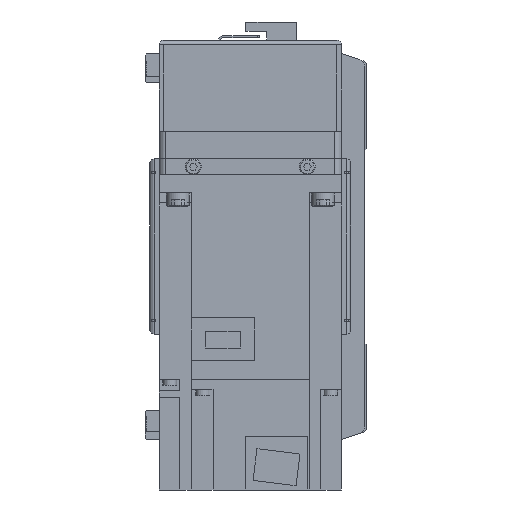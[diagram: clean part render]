
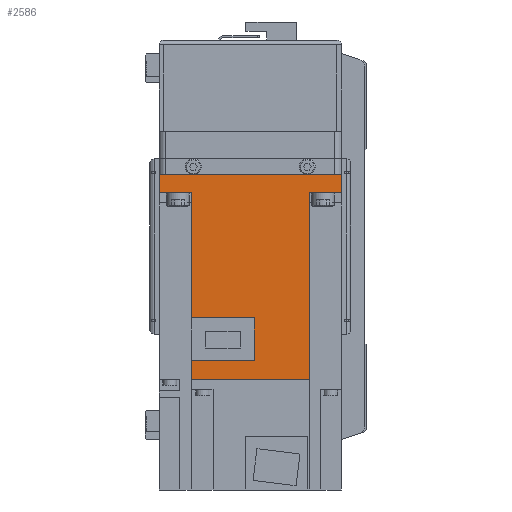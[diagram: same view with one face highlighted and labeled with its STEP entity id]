
A CAD part, left-side view. The second image highlights one B-rep face of the part: STEP entity #2586.
In plain terms, the highlighted planar face has unit normal (-1, 0, 0) as drawn and (1, 0, 0) by its records, which use the part's own axes.
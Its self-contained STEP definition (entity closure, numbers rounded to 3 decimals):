
#2586 = ADVANCED_FACE( '', ( #5680 ), #5681, .F. );
#5680 = FACE_OUTER_BOUND( '', #9236, .T. );
#5681 = PLANE( '', #9237 );
#9236 = EDGE_LOOP( '', ( #16623, #16624, #16625, #16626, #16627, #16628, #16629, #16630, #16631, #16632, #16633, #16634 ) );
#9237 = AXIS2_PLACEMENT_3D( '', #16635, #16636, #16637 );
#16623 = ORIENTED_EDGE( '', *, *, #22984, .F. );
#16624 = ORIENTED_EDGE( '', *, *, #22985, .F. );
#16625 = ORIENTED_EDGE( '', *, *, #22899, .F. );
#16626 = ORIENTED_EDGE( '', *, *, #22357, .T. );
#16627 = ORIENTED_EDGE( '', *, *, #20607, .F. );
#16628 = ORIENTED_EDGE( '', *, *, #20222, .T. );
#16629 = ORIENTED_EDGE( '', *, *, #22370, .T. );
#16630 = ORIENTED_EDGE( '', *, *, #21578, .F. );
#16631 = ORIENTED_EDGE( '', *, *, #22241, .F. );
#16632 = ORIENTED_EDGE( '', *, *, #22986, .F. );
#16633 = ORIENTED_EDGE( '', *, *, #22097, .F. );
#16634 = ORIENTED_EDGE( '', *, *, #22987, .F. );
#16635 = CARTESIAN_POINT( '', ( 40., 89.8, 40. ) );
#16636 = DIRECTION( '', ( -1., 0., 0. ) );
#16637 = DIRECTION( '', ( 0., 0., 1. ) );
#20222 = EDGE_CURVE( '', #24056, #24054, #24057, .T. );
#20607 = EDGE_CURVE( '', #24056, #24737, #24738, .T. );
#21578 = EDGE_CURVE( '', #26321, #26323, #26324, .T. );
#22097 = EDGE_CURVE( '', #27140, #27141, #27142, .T. );
#22241 = EDGE_CURVE( '', #27353, #26321, #27354, .T. );
#22357 = EDGE_CURVE( '', #27518, #24737, #27519, .T. );
#22370 = EDGE_CURVE( '', #24054, #26323, #27537, .T. );
#22899 = EDGE_CURVE( '', #27518, #28254, #28257, .T. );
#22984 = EDGE_CURVE( '', #27649, #28363, #28364, .T. );
#22985 = EDGE_CURVE( '', #28254, #27649, #28365, .T. );
#22986 = EDGE_CURVE( '', #27141, #27353, #28366, .T. );
#22987 = EDGE_CURVE( '', #28363, #27140, #28367, .T. );
#24054 = VERTEX_POINT( '', #29688 );
#24056 = VERTEX_POINT( '', #29691 );
#24057 = LINE( '', #29692, #29693 );
#24737 = VERTEX_POINT( '', #30829 );
#24738 = LINE( '', #30830, #30831 );
#26321 = VERTEX_POINT( '', #33308 );
#26323 = VERTEX_POINT( '', #33311 );
#26324 = LINE( '', #33312, #33313 );
#27140 = VERTEX_POINT( '', #34717 );
#27141 = VERTEX_POINT( '', #34718 );
#27142 = LINE( '', #34719, #34720 );
#27353 = VERTEX_POINT( '', #35033 );
#27354 = LINE( '', #35034, #35035 );
#27518 = VERTEX_POINT( '', #35276 );
#27519 = LINE( '', #35277, #35278 );
#27537 = LINE( '', #35303, #35304 );
#27649 = VERTEX_POINT( '', #35472 );
#28254 = VERTEX_POINT( '', #36288 );
#28257 = LINE( '', #36293, #36294 );
#28363 = VERTEX_POINT( '', #36443 );
#28364 = LINE( '', #36444, #36445 );
#28365 = LINE( '', #36446, #36447 );
#28366 = LINE( '', #36448, #36449 );
#28367 = LINE( '', #36450, #36451 );
#29688 = CARTESIAN_POINT( '', ( 40., 0., 40. ) );
#29691 = CARTESIAN_POINT( '', ( 40., 8., 40. ) );
#29692 = CARTESIAN_POINT( '', ( 40., 89.8, 40. ) );
#29693 = VECTOR( '', #37799, 1000. );
#30829 = CARTESIAN_POINT( '', ( 40., 8., 25.95 ) );
#30830 = CARTESIAN_POINT( '', ( 40., 8., 40. ) );
#30831 = VECTOR( '', #38306, 1000. );
#33308 = CARTESIAN_POINT( '', ( 40., 8., -40. ) );
#33311 = CARTESIAN_POINT( '', ( 40., 0., -40. ) );
#33312 = CARTESIAN_POINT( '', ( 40., 89.8, -40. ) );
#33313 = VECTOR( '', #39545, 1000. );
#34717 = CARTESIAN_POINT( '', ( 40., 62.8, 1.8 ) );
#34718 = CARTESIAN_POINT( '', ( 40., 62.8, -25.95 ) );
#34719 = CARTESIAN_POINT( '', ( 40., 62.8, 1.8 ) );
#34720 = VECTOR( '', #40206, 1000. );
#35033 = CARTESIAN_POINT( '', ( 40., 8., -25.95 ) );
#35034 = CARTESIAN_POINT( '', ( 40., 8., 40. ) );
#35035 = VECTOR( '', #40396, 1000. );
#35276 = CARTESIAN_POINT( '', ( 40., 89.8, 25.95 ) );
#35277 = CARTESIAN_POINT( '', ( 40., 158., 25.95 ) );
#35278 = VECTOR( '', #40521, 1000. );
#35303 = CARTESIAN_POINT( '', ( 40., 0., 40. ) );
#35304 = VECTOR( '', #40535, 1000. );
#35472 = CARTESIAN_POINT( '', ( 40., 81.4, -25.95 ) );
#36288 = CARTESIAN_POINT( '', ( 40., 89.8, -25.95 ) );
#36293 = CARTESIAN_POINT( '', ( 40., 89.8, 40. ) );
#36294 = VECTOR( '', #41144, 1000. );
#36443 = CARTESIAN_POINT( '', ( 40., 81.4, 1.8 ) );
#36444 = CARTESIAN_POINT( '', ( 40., 81.4, -26. ) );
#36445 = VECTOR( '', #41222, 1000. );
#36446 = CARTESIAN_POINT( '', ( 40., 158., -25.95 ) );
#36447 = VECTOR( '', #41223, 1000. );
#36448 = CARTESIAN_POINT( '', ( 40., 158., -25.95 ) );
#36449 = VECTOR( '', #41224, 1000. );
#36450 = CARTESIAN_POINT( '', ( 40., 81.4, 1.8 ) );
#36451 = VECTOR( '', #41225, 1000. );
#37799 = DIRECTION( '', ( 0., -1., 0. ) );
#38306 = DIRECTION( '', ( 0., 0., -1. ) );
#39545 = DIRECTION( '', ( 0., -1., 0. ) );
#40206 = DIRECTION( '', ( 0., 0., -1. ) );
#40396 = DIRECTION( '', ( 0., 0., -1. ) );
#40521 = DIRECTION( '', ( 0., -1., 0. ) );
#40535 = DIRECTION( '', ( 0., 0., -1. ) );
#41144 = DIRECTION( '', ( 0., 0., -1. ) );
#41222 = DIRECTION( '', ( 0., 0., 1. ) );
#41223 = DIRECTION( '', ( 0., -1., 0. ) );
#41224 = DIRECTION( '', ( 0., -1., 0. ) );
#41225 = DIRECTION( '', ( 0., -1., 0. ) );
